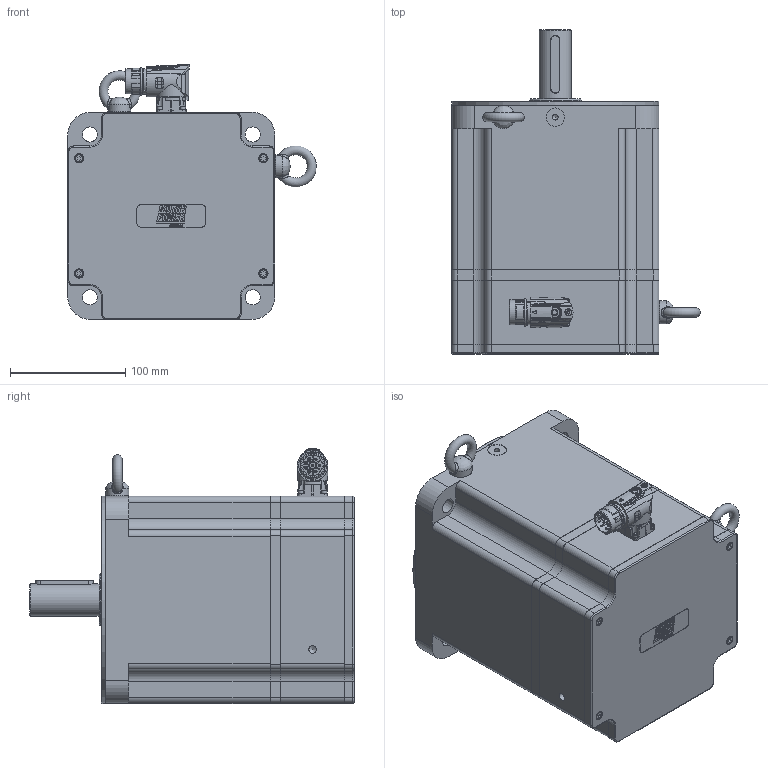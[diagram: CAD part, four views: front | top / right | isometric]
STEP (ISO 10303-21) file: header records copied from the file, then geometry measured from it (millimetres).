
FILE_DESCRIPTION(/* description */ ('Unknown'),/* implementation_level */ '2;1');
FILE_NAME(/* name */ 'TC4-180.7B.X X.X.3.XX.0.X.C21 Q0B807',/* time_stamp */ '2026-03-10T10:40:03+01:00',/* author */ ('Unknown'),/* organization */ ('Unknown'),/* preprocessor_version */ 'ST-DEVELOPER v19.4',/* originating_system */ 'Solid Edge',/* authorisation */ 'Unknown');
FILE_SCHEMA (('AUTOMOTIVE_DESIGN {1 0 10303 214 3 1 1}'));
Products named in the file (15): Q0B807 7C VUOTO; Calotta TC4-180 V8; 003251040631; 005911000479; 003155002233; 005113000610; 005911000106; 003003199966; 005119001064; 005911000185; Coperchio campana TC4-180; 005911000180; 005321000010; 007117000456; Corpo TC4-180 7C
Assembly tree (28 placements, depth 2):
  Q0B807 7C VUOTO
    Calotta TC4-180 V8
    003251040631
    005911000479  x8
    003155002233
    005113000610
    005911000106
    003003199966
    005119001064
    005911000185  x4
    Coperchio campana TC4-180
    005911000180  x4
    005321000010  x2
    007117000456
    Corpo TC4-180 7C
Bounding box: 215.96 x 281.5 x 221.5 mm (x, y, z)
Volume: 2894981.7 mm3; surface area: 628549.3 mm2
Topology: 30 solids, 30 shells, 1759 faces, 4402 edges, 2811 vertices
Faces by surface type: plane 777, cylinder 387, bspline 227, cone 201, torus 131, sphere 36
Full cylindrical faces by diameter (mm): 1 x4, 1.4 x4, 2 x4, 2.013 x8, 2.5 x4, 2.8 x4, 3 x8, 3.242 x8, 4 x5, 4.134 x24, 4.2 x8, 4.5 x9, 4.7 x4, 4.917 x2, 5 x8, 5.5 x9, 5.8 x1, 5.9 x1, 6.647 x14, 6.8 x1, 7 x7, 8 x7, 8.376 x2, 9 x4, 10 x3, 15 x1, 16 x1, 17.4 x1, 19.9 x1, 20 x3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
Entity records: 60333 total; most frequent: CARTESIAN_POINT 15660, ORIENTED_EDGE 7014, DIRECTION 6711, EDGE_CURVE 3507, AXIS2_PLACEMENT_3D 2546, VERTEX_POINT 2430, FACE_BOUND 2067, EDGE_LOOP 2040
